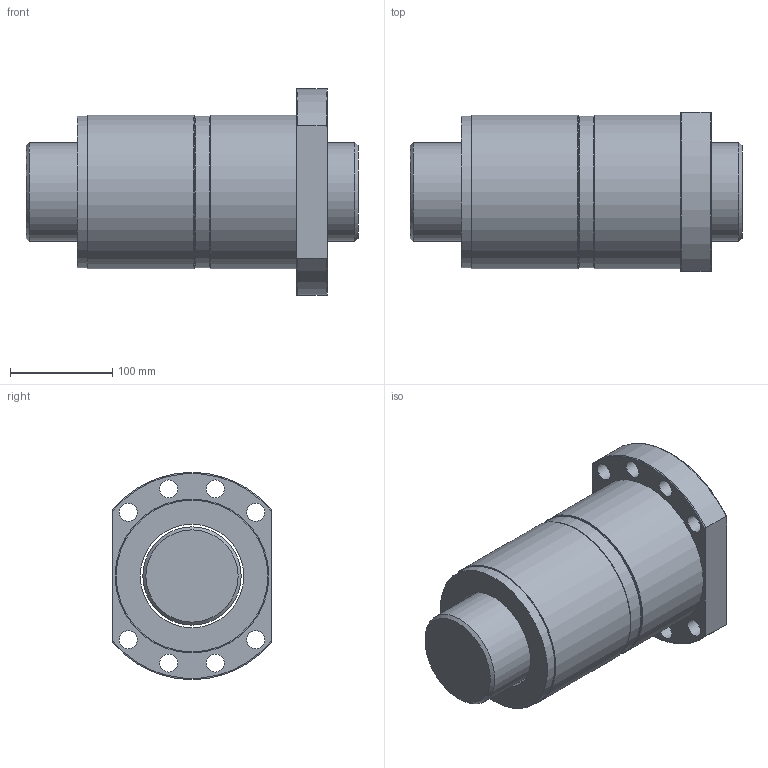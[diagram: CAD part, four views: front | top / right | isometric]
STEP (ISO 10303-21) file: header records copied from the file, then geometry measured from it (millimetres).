
FILE_DESCRIPTION(/* description */ (''),/* implementation_level */ '2;1');
FILE_NAME(/* name */ 'DFS10020',/* time_stamp */ '2007-10-26T13:27:30+08:00',/* author */ (''),/* organization */ (''),/* preprocessor_version */ 'ST-DEVELOPER v9',/* originating_system */ 'UGS - NX 3.0',/* authorisation */ '');
FILE_SCHEMA (('CONFIG_CONTROL_DESIGN'));
Length unit declared in the file: millimetre
Products named in the file (1): jaso15A4i31h
Bounding box: 324 x 155 x 202 mm (x, y, z)
Volume: 4930885 mm3; surface area: 439617.5 mm2
Topology: 6 solids, 6 shells, 49 faces, 98 edges, 63 vertices
Faces by surface type: cylinder 22, plane 16, torus 9, cone 2
Full cylindrical faces by diameter (mm): 17.5 x8, 96 x1, 101 x5, 148 x3, 150 x3
Entity records: 1412 total; most frequent: CARTESIAN_POINT 328, DIRECTION 218, ORIENTED_EDGE 142, AXIS2_PLACEMENT_3D 105, EDGE_LOOP 104, FACE_BOUND 80, EDGE_CURVE 71, VERTEX_POINT 63
